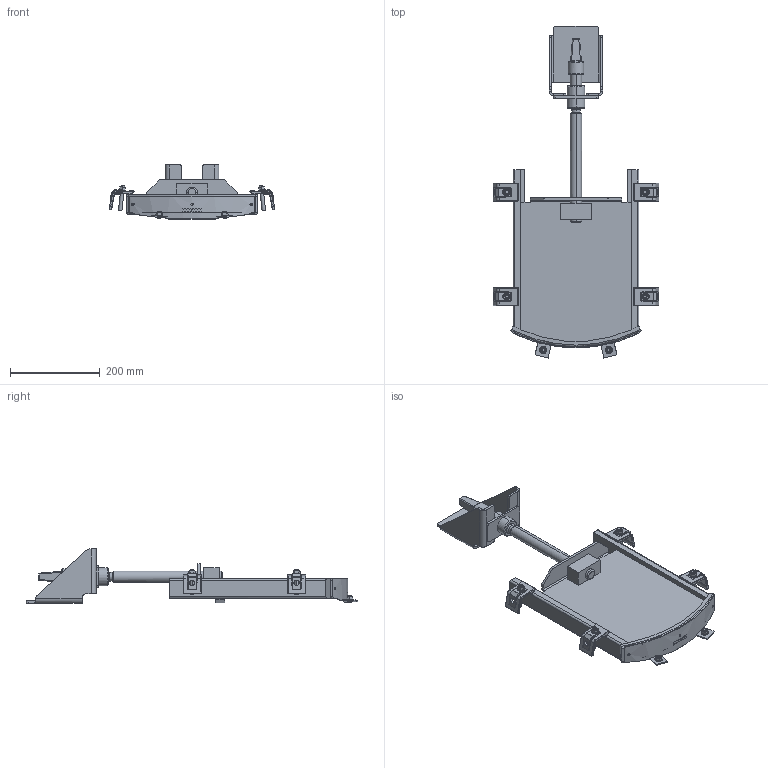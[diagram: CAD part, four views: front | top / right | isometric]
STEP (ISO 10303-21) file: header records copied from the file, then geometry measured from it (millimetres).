
FILE_DESCRIPTION (( 'STEP AP214' ), '1' );
FILE_NAME ('LW 200 Schacht1500 geschr..STEP', '2022-05-19T11:53:12', ( '' ), ( '' ), 'SwSTEP 2.0', 'SolidWorks 2021', '' );
FILE_SCHEMA (( 'AUTOMOTIVE_DESIGN' ));
Length unit declared in the file: millimetre
Products named in the file (1): LW 200 Schacht1500 geschr.
Bounding box: 369.56 x 739.69 x 121 mm (x, y, z)
Volume: 1919878.1 mm3; surface area: 537169.6 mm2
Topology: 1 solids, 5 shells, 1069 faces, 2604 edges, 1530 vertices
Faces by surface type: cylinder 333, plane 307, bspline 223, cone 90, sphere 60, torus 56
Entity records: 53904 total; most frequent: CARTESIAN_POINT 19320, ORIENTED_EDGE 5088, DIRECTION 4247, EDGE_CURVE 2544, AXIS2_PLACEMENT_3D 1651, VERTEX_POINT 1522, EDGE_LOOP 1136, ADVANCED_FACE 1069
